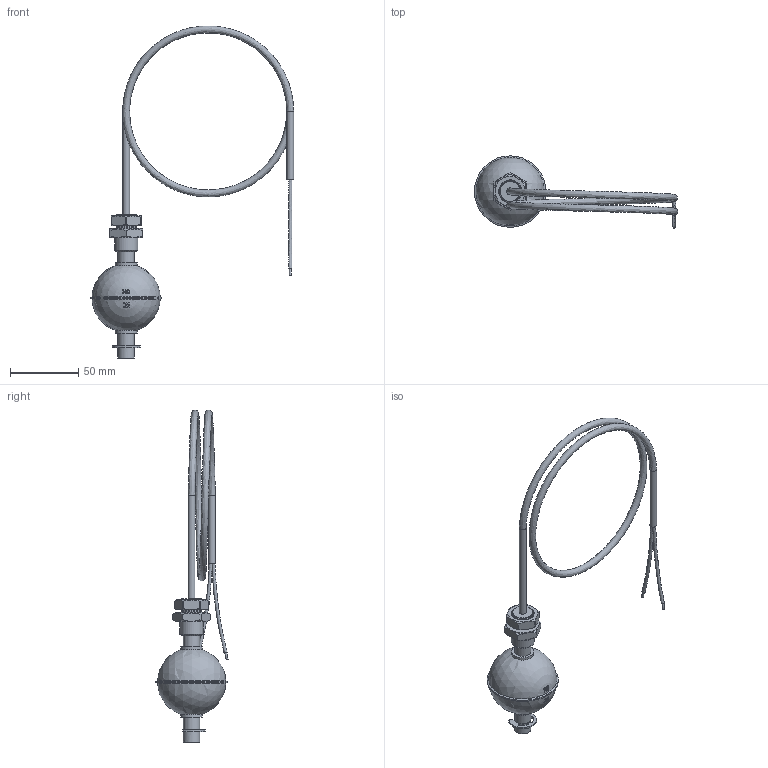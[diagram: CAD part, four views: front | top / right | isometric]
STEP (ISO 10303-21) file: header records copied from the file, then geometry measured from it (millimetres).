
FILE_DESCRIPTION(/* description */ (''),/* implementation_level */ '2;1');
FILE_NAME(/* name */ '\\SRVGEST\camlogic\TEMP\Kulwant S\2_STEP\2_STEP\CLR20\CLR20-1.stp',/* time_stamp */ '2021-06-15T12:22:15+02:00',/* author */ ('kulwant.singh'),/* organization */ (''),/* preprocessor_version */ 'ST-DEVELOPER v18.1',/* originating_system */ 'Autodesk Inventor 2022',/* authorisation */ '');
FILE_SCHEMA (('AUTOMOTIVE_DESIGN { 1 0 10303 214 3 1 1 }'));
Length unit declared in the file: millimetre
Products named in the file (1): CLR20-1
Bounding box: 148.65 x 52.97 x 242.9 mm (x, y, z)
Volume: 92600.7 mm3; surface area: 24577.2 mm2
Topology: 1 solids, 1 shells, 181 faces, 456 edges, 293 vertices
Faces by surface type: plane 72, cylinder 34, cone 33, bspline 33, sphere 7, torus 2
Full cylindrical faces by diameter (mm): 1.5 x2, 5 x2, 11.5 x1, 12 x3, 14.5 x1, 16 x2, 17 x1, 24 x2, 52.3 x1
Entity records: 9026 total; most frequent: CARTESIAN_POINT 4641, ORIENTED_EDGE 912, DIRECTION 820, EDGE_CURVE 456, AXIS2_PLACEMENT_3D 346, VERTEX_POINT 293, EDGE_LOOP 201, CIRCLE 197
